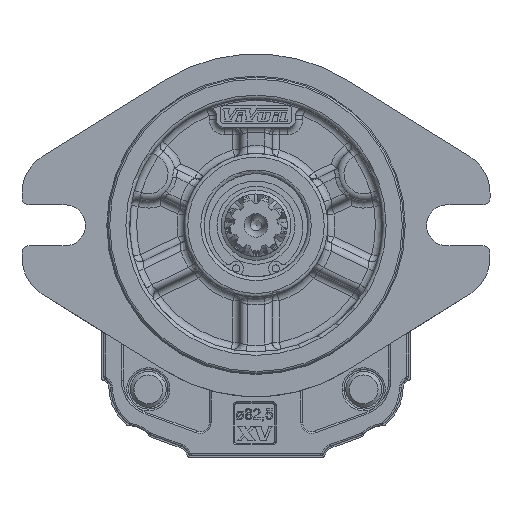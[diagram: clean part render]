
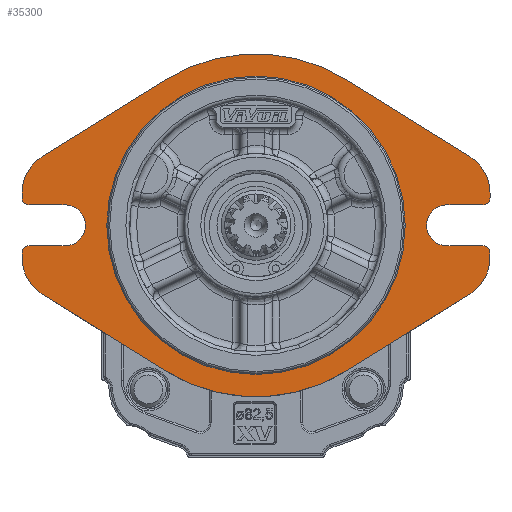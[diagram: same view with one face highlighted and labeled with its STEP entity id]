
A CAD part, front view. The second image highlights one B-rep face of the part: STEP entity #35300.
In plain terms, the highlighted planar face has unit normal (0, -1, 0).
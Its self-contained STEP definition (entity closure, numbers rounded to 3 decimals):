
#1567=LINE('',#52006,#3479);
#1571=LINE('',#52018,#3483);
#1572=LINE('',#52020,#3484);
#1579=LINE('',#52039,#3491);
#1580=LINE('',#52041,#3492);
#1587=LINE('',#52070,#3499);
#1588=LINE('',#52075,#3500);
#1589=LINE('',#52079,#3501);
#1590=LINE('',#52082,#3502);
#1591=LINE('',#52086,#3503);
#1592=LINE('',#52090,#3504);
#1593=LINE('',#52094,#3505);
#3479=VECTOR('',#41426,1000.);
#3483=VECTOR('',#41438,1000.);
#3484=VECTOR('',#41441,1000.);
#3491=VECTOR('',#41456,1000.);
#3492=VECTOR('',#41459,1000.);
#3499=VECTOR('',#41488,1000.);
#3500=VECTOR('',#41491,1000.);
#3501=VECTOR('',#41494,1000.);
#3502=VECTOR('',#41499,1000.);
#3503=VECTOR('',#41502,1000.);
#3504=VECTOR('',#41505,1000.);
#3505=VECTOR('',#41508,1000.);
#5026=PLANE('',#37227);
#8367=ORIENTED_EDGE('',*,*,#14868,.T.);
#8368=ORIENTED_EDGE('',*,*,#14869,.F.);
#8369=ORIENTED_EDGE('',*,*,#14870,.T.);
#8370=ORIENTED_EDGE('',*,*,#14871,.F.);
#8371=ORIENTED_EDGE('',*,*,#14872,.F.);
#8372=ORIENTED_EDGE('',*,*,#14873,.F.);
#8373=ORIENTED_EDGE('',*,*,#14789,.F.);
#8374=ORIENTED_EDGE('',*,*,#14838,.F.);
#8375=ORIENTED_EDGE('',*,*,#14841,.F.);
#8376=ORIENTED_EDGE('',*,*,#14844,.F.);
#8377=ORIENTED_EDGE('',*,*,#14874,.T.);
#8378=ORIENTED_EDGE('',*,*,#14845,.F.);
#8379=ORIENTED_EDGE('',*,*,#14851,.F.);
#8380=ORIENTED_EDGE('',*,*,#14854,.F.);
#8381=ORIENTED_EDGE('',*,*,#14875,.T.);
#8382=ORIENTED_EDGE('',*,*,#14855,.F.);
#8383=ORIENTED_EDGE('',*,*,#14867,.F.);
#8384=ORIENTED_EDGE('',*,*,#14876,.F.);
#8385=ORIENTED_EDGE('',*,*,#14877,.F.);
#8386=ORIENTED_EDGE('',*,*,#14878,.F.);
#8387=ORIENTED_EDGE('',*,*,#14879,.F.);
#8388=ORIENTED_EDGE('',*,*,#14880,.F.);
#8389=ORIENTED_EDGE('',*,*,#14881,.T.);
#8390=ORIENTED_EDGE('',*,*,#14882,.F.);
#8391=ORIENTED_EDGE('',*,*,#14883,.F.);
#14789=EDGE_CURVE('',#18187,#18188,#20169,.T.);
#14838=EDGE_CURVE('',#18230,#18187,#1567,.T.);
#14841=EDGE_CURVE('',#18232,#18230,#20197,.T.);
#14844=EDGE_CURVE('',#18234,#18232,#1571,.T.);
#14845=EDGE_CURVE('',#18235,#18236,#1572,.T.);
#14851=EDGE_CURVE('',#18240,#18235,#20199,.T.);
#14854=EDGE_CURVE('',#18242,#18240,#1579,.T.);
#14855=EDGE_CURVE('',#18243,#18244,#1580,.T.);
#14867=EDGE_CURVE('',#18252,#18243,#20205,.T.);
#14868=EDGE_CURVE('',#18253,#18253,#20206,.T.);
#14869=EDGE_CURVE('',#18254,#18255,#1587,.T.);
#14870=EDGE_CURVE('',#18254,#18256,#20207,.F.);
#14871=EDGE_CURVE('',#18257,#18256,#1588,.T.);
#14872=EDGE_CURVE('',#18258,#18257,#20208,.T.);
#14873=EDGE_CURVE('',#18188,#18258,#1589,.T.);
#14874=EDGE_CURVE('',#18234,#18236,#20209,.F.);
#14875=EDGE_CURVE('',#18242,#18244,#20210,.F.);
#14876=EDGE_CURVE('',#18259,#18252,#1590,.T.);
#14877=EDGE_CURVE('',#18260,#18259,#20211,.T.);
#14878=EDGE_CURVE('',#18261,#18260,#1591,.T.);
#14879=EDGE_CURVE('',#18262,#18261,#20212,.T.);
#14880=EDGE_CURVE('',#18263,#18262,#1592,.T.);
#14881=EDGE_CURVE('',#18263,#18264,#20213,.F.);
#14882=EDGE_CURVE('',#18265,#18264,#1593,.T.);
#14883=EDGE_CURVE('',#18255,#18265,#20214,.T.);
#18187=VERTEX_POINT('',#51906);
#18188=VERTEX_POINT('',#51908);
#18230=VERTEX_POINT('',#52005);
#18232=VERTEX_POINT('',#52011);
#18234=VERTEX_POINT('',#52017);
#18235=VERTEX_POINT('',#52021);
#18236=VERTEX_POINT('',#52022);
#18240=VERTEX_POINT('',#52032);
#18242=VERTEX_POINT('',#52038);
#18243=VERTEX_POINT('',#52042);
#18244=VERTEX_POINT('',#52043);
#18252=VERTEX_POINT('',#52065);
#18253=VERTEX_POINT('',#52069);
#18254=VERTEX_POINT('',#52071);
#18255=VERTEX_POINT('',#52072);
#18256=VERTEX_POINT('',#52074);
#18257=VERTEX_POINT('',#52076);
#18258=VERTEX_POINT('',#52078);
#18259=VERTEX_POINT('',#52083);
#18260=VERTEX_POINT('',#52085);
#18261=VERTEX_POINT('',#52087);
#18262=VERTEX_POINT('',#52089);
#18263=VERTEX_POINT('',#52091);
#18264=VERTEX_POINT('',#52093);
#18265=VERTEX_POINT('',#52095);
#20169=CIRCLE('',#37176,47.75);
#20197=CIRCLE('',#37210,12.);
#20199=CIRCLE('',#37215,5.7);
#20205=CIRCLE('',#37226,12.);
#20206=CIRCLE('',#37228,40.982);
#20207=CIRCLE('',#37229,2.);
#20208=CIRCLE('',#37230,12.);
#20209=CIRCLE('',#37231,2.);
#20210=CIRCLE('',#37232,2.);
#20211=CIRCLE('',#37233,47.75);
#20212=CIRCLE('',#37234,12.);
#20213=CIRCLE('',#37235,2.);
#20214=CIRCLE('',#37236,5.7);
#21676=EDGE_LOOP('',(#8367));
#21677=EDGE_LOOP('',(#8368,#8369,#8370,#8371,#8372,#8373,#8374,#8375,#8376,
#8377,#8378,#8379,#8380,#8381,#8382,#8383,#8384,#8385,#8386,#8387,#8388,
#8389,#8390,#8391));
#23412=FACE_BOUND('',#21676,.T.);
#23413=FACE_BOUND('',#21677,.T.);
#35300=ADVANCED_FACE('',(#23412,#23413),#5026,.F.);
#37176=AXIS2_PLACEMENT_3D('',#51907,#41342,#41343);
#37210=AXIS2_PLACEMENT_3D('',#52012,#41432,#41433);
#37215=AXIS2_PLACEMENT_3D('',#52033,#41450,#41451);
#37226=AXIS2_PLACEMENT_3D('',#52066,#41482,#41483);
#37227=AXIS2_PLACEMENT_3D('',#52067,#41484,#41485);
#37228=AXIS2_PLACEMENT_3D('',#52068,#41486,#41487);
#37229=AXIS2_PLACEMENT_3D('',#52073,#41489,#41490);
#37230=AXIS2_PLACEMENT_3D('',#52077,#41492,#41493);
#37231=AXIS2_PLACEMENT_3D('',#52080,#41495,#41496);
#37232=AXIS2_PLACEMENT_3D('',#52081,#41497,#41498);
#37233=AXIS2_PLACEMENT_3D('',#52084,#41500,#41501);
#37234=AXIS2_PLACEMENT_3D('',#52088,#41503,#41504);
#37235=AXIS2_PLACEMENT_3D('',#52092,#41506,#41507);
#37236=AXIS2_PLACEMENT_3D('',#52096,#41509,#41510);
#41342=DIRECTION('',(0.,1.,0.));
#41343=DIRECTION('',(-1.,0.,0.));
#41426=DIRECTION('',(-0.849,0.,-0.528));
#41432=DIRECTION('',(0.,1.,0.));
#41433=DIRECTION('',(-1.,0.,0.));
#41438=DIRECTION('',(0.,0.,-1.));
#41441=DIRECTION('',(1.,0.,0.));
#41450=DIRECTION('',(0.,-1.,0.));
#41451=DIRECTION('',(1.,0.,0.));
#41456=DIRECTION('',(-1.,0.,0.));
#41459=DIRECTION('',(0.,0.,-1.));
#41482=DIRECTION('',(0.,1.,0.));
#41483=DIRECTION('',(-1.,0.,0.));
#41484=DIRECTION('',(0.,1.,0.));
#41485=DIRECTION('',(0.,0.,-1.));
#41486=DIRECTION('',(0.,1.,0.));
#41487=DIRECTION('',(-1.,0.,0.));
#41488=DIRECTION('',(1.,0.,0.));
#41489=DIRECTION('',(0.,1.,0.));
#41490=DIRECTION('',(0.,0.,-1.));
#41491=DIRECTION('',(0.,0.,1.));
#41492=DIRECTION('',(0.,1.,0.));
#41493=DIRECTION('',(1.,0.,0.));
#41494=DIRECTION('',(-0.849,0.,0.528));
#41495=DIRECTION('',(0.,1.,0.));
#41496=DIRECTION('',(0.,0.,-1.));
#41497=DIRECTION('',(0.,1.,0.));
#41498=DIRECTION('',(0.,0.,-1.));
#41499=DIRECTION('',(0.849,0.,-0.528));
#41500=DIRECTION('',(0.,1.,0.));
#41501=DIRECTION('',(-1.,0.,0.));
#41502=DIRECTION('',(0.849,0.,0.528));
#41503=DIRECTION('',(0.,1.,0.));
#41504=DIRECTION('',(1.,0.,0.));
#41505=DIRECTION('',(0.,0.,1.));
#41506=DIRECTION('',(0.,1.,0.));
#41507=DIRECTION('',(0.,0.,-1.));
#41508=DIRECTION('',(-1.,0.,0.));
#41509=DIRECTION('',(0.,-1.,0.));
#41510=DIRECTION('',(-1.,0.,0.));
#51906=CARTESIAN_POINT('',(25.235,-19.,-24.837));
#51907=CARTESIAN_POINT('',(0.,-19.,15.7));
#51908=CARTESIAN_POINT('',(-25.235,-19.,-24.837));
#52005=CARTESIAN_POINT('',(59.532,-19.,-3.487));
#52006=CARTESIAN_POINT('',(59.532,-19.,-3.487));
#52011=CARTESIAN_POINT('',(65.19,-19.,6.7));
#52012=CARTESIAN_POINT('',(53.19,-19.,6.7));
#52017=CARTESIAN_POINT('',(65.19,-19.,8.));
#52018=CARTESIAN_POINT('',(65.19,-19.,6.7));
#52020=CARTESIAN_POINT('',(53.19,-19.,10.));
#52021=CARTESIAN_POINT('',(53.19,-19.,10.));
#52022=CARTESIAN_POINT('',(63.19,-19.,10.));
#52032=CARTESIAN_POINT('',(53.19,-19.,21.4));
#52033=CARTESIAN_POINT('',(53.19,-19.,15.7));
#52038=CARTESIAN_POINT('',(63.19,-19.,21.4));
#52039=CARTESIAN_POINT('',(53.19,-19.,21.4));
#52041=CARTESIAN_POINT('',(65.19,-19.,24.7));
#52042=CARTESIAN_POINT('',(65.19,-19.,24.7));
#52043=CARTESIAN_POINT('',(65.19,-19.,23.4));
#52065=CARTESIAN_POINT('',(59.532,-19.,34.887));
#52066=CARTESIAN_POINT('',(53.19,-19.,24.7));
#52067=CARTESIAN_POINT('',(0.,-19.,15.7));
#52068=CARTESIAN_POINT('',(0.,-19.,15.7));
#52069=CARTESIAN_POINT('',(-40.982,-19.,15.7));
#52070=CARTESIAN_POINT('',(-53.19,-19.,10.));
#52071=CARTESIAN_POINT('',(-63.19,-19.,10.));
#52072=CARTESIAN_POINT('',(-53.19,-19.,10.));
#52073=CARTESIAN_POINT('',(-63.19,-19.,8.));
#52074=CARTESIAN_POINT('',(-65.19,-19.,8.));
#52075=CARTESIAN_POINT('',(-65.19,-19.,6.7));
#52076=CARTESIAN_POINT('',(-65.19,-19.,6.7));
#52077=CARTESIAN_POINT('',(-53.19,-19.,6.7));
#52078=CARTESIAN_POINT('',(-59.532,-19.,-3.487));
#52079=CARTESIAN_POINT('',(-59.532,-19.,-3.487));
#52080=CARTESIAN_POINT('',(63.19,-19.,8.));
#52081=CARTESIAN_POINT('',(63.19,-19.,23.4));
#52082=CARTESIAN_POINT('',(25.235,-19.,56.237));
#52083=CARTESIAN_POINT('',(25.235,-19.,56.237));
#52084=CARTESIAN_POINT('',(0.,-19.,15.7));
#52085=CARTESIAN_POINT('',(-25.235,-19.,56.237));
#52086=CARTESIAN_POINT('',(-25.235,-19.,56.237));
#52087=CARTESIAN_POINT('',(-59.532,-19.,34.887));
#52088=CARTESIAN_POINT('',(-53.19,-19.,24.7));
#52089=CARTESIAN_POINT('',(-65.19,-19.,24.7));
#52090=CARTESIAN_POINT('',(-65.19,-19.,24.7));
#52091=CARTESIAN_POINT('',(-65.19,-19.,23.4));
#52092=CARTESIAN_POINT('',(-63.19,-19.,23.4));
#52093=CARTESIAN_POINT('',(-63.19,-19.,21.4));
#52094=CARTESIAN_POINT('',(-53.19,-19.,21.4));
#52095=CARTESIAN_POINT('',(-53.19,-19.,21.4));
#52096=CARTESIAN_POINT('',(-53.19,-19.,15.7));
